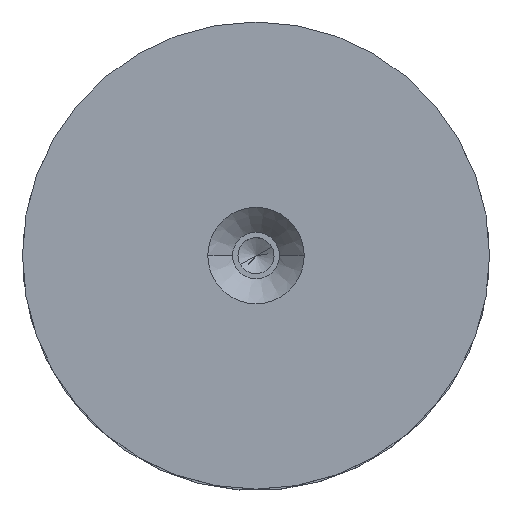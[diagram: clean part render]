
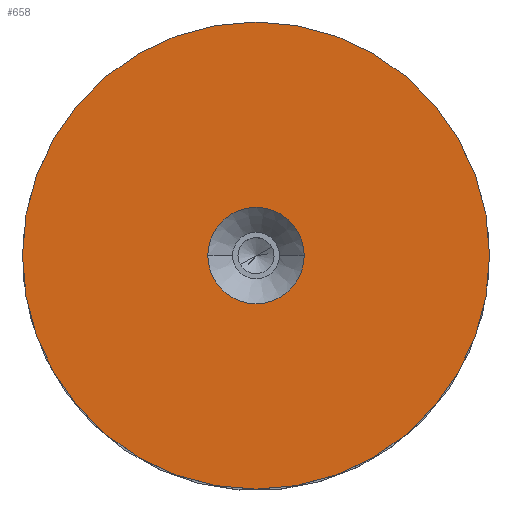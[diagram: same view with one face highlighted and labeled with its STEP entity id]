
A CAD part, top view. The second image highlights one B-rep face of the part: STEP entity #658.
In plain terms, the highlighted planar face has unit normal (0, 0, 1).
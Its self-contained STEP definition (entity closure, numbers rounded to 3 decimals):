
#7 = DIRECTION ( 'NONE',  ( 0., 0., 1. ) ) ;
#17 = EDGE_CURVE ( 'NONE', #158, #795, #743, .T. ) ;
#48 = DIRECTION ( 'NONE',  ( 0., 0., 1. ) ) ;
#85 = ORIENTED_EDGE ( 'NONE', *, *, #17, .T. ) ;
#112 = EDGE_LOOP ( 'NONE', ( #764, #85 ) ) ;
#133 = CARTESIAN_POINT ( 'NONE',  ( 55., 0., 10. ) ) ;
#158 = VERTEX_POINT ( 'NONE', #257 ) ;
#190 = AXIS2_PLACEMENT_3D ( 'NONE', #303, #647, #794 ) ;
#193 = CARTESIAN_POINT ( 'NONE',  ( 11.35, 0., 10. ) ) ;
#210 = AXIS2_PLACEMENT_3D ( 'NONE', #460, #48, #777 ) ;
#227 = CARTESIAN_POINT ( 'NONE',  ( 0., 0., 10. ) ) ;
#251 = CARTESIAN_POINT ( 'NONE',  ( -55., 0., 10. ) ) ;
#257 = CARTESIAN_POINT ( 'NONE',  ( -11.35, 0., 10. ) ) ;
#292 = PLANE ( 'NONE',  #210 ) ;
#300 = DIRECTION ( 'NONE',  ( 1., 0., 0. ) ) ;
#303 = CARTESIAN_POINT ( 'NONE',  ( 0., 0., 10. ) ) ;
#353 = CIRCLE ( 'NONE', #514, 55. ) ;
#413 = DIRECTION ( 'NONE',  ( 0., 0., -1. ) ) ;
#436 = CIRCLE ( 'NONE', #849, 11.35 ) ;
#452 = DIRECTION ( 'NONE',  ( 0., 0., 1. ) ) ;
#458 = ORIENTED_EDGE ( 'NONE', *, *, #755, .T. ) ;
#460 = CARTESIAN_POINT ( 'NONE',  ( 0., 0., 10. ) ) ;
#514 = AXIS2_PLACEMENT_3D ( 'NONE', #546, #7, #809 ) ;
#515 = EDGE_CURVE ( 'NONE', #541, #655, #353, .T. ) ;
#541 = VERTEX_POINT ( 'NONE', #251 ) ;
#546 = CARTESIAN_POINT ( 'NONE',  ( 0., 0., 10. ) ) ;
#563 = FACE_BOUND ( 'NONE', #112, .T. ) ;
#610 = ORIENTED_EDGE ( 'NONE', *, *, #515, .T. ) ;
#647 = DIRECTION ( 'NONE',  ( 0., 0., -1. ) ) ;
#655 = VERTEX_POINT ( 'NONE', #133 ) ;
#658 = ADVANCED_FACE ( 'NONE', ( #563, #759 ), #292, .T. ) ;
#660 = DIRECTION ( 'NONE',  ( 1., 0., 0. ) ) ;
#676 = AXIS2_PLACEMENT_3D ( 'NONE', #840, #452, #300 ) ;
#743 = CIRCLE ( 'NONE', #190, 11.35 ) ;
#755 = EDGE_CURVE ( 'NONE', #655, #541, #855, .T. ) ;
#759 = FACE_OUTER_BOUND ( 'NONE', #836, .T. ) ;
#764 = ORIENTED_EDGE ( 'NONE', *, *, #787, .T. ) ;
#777 = DIRECTION ( 'NONE',  ( 1., 0., 0. ) ) ;
#787 = EDGE_CURVE ( 'NONE', #795, #158, #436, .T. ) ;
#794 = DIRECTION ( 'NONE',  ( 1., 0., 0. ) ) ;
#795 = VERTEX_POINT ( 'NONE', #193 ) ;
#809 = DIRECTION ( 'NONE',  ( 1., 0., 0. ) ) ;
#836 = EDGE_LOOP ( 'NONE', ( #610, #458 ) ) ;
#840 = CARTESIAN_POINT ( 'NONE',  ( 0., 0., 10. ) ) ;
#849 = AXIS2_PLACEMENT_3D ( 'NONE', #227, #413, #660 ) ;
#855 = CIRCLE ( 'NONE', #676, 55. ) ;
